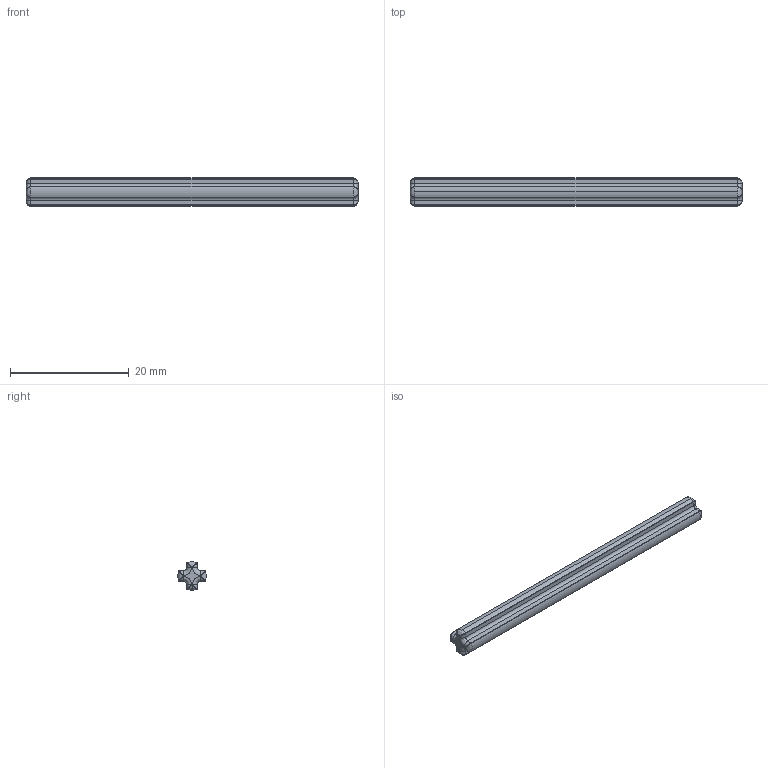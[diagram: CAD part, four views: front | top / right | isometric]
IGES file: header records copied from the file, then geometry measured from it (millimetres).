
Start section: SolidWorks IGES file using analytic representation for surfaces
Global section: file name: C:\Users\PC\Desktop\Lego Technik Gear and Axles\Axles\STEP, IGES, STL\44294 Black Technic Axle 7.IGS; native system: SolidWorks 2014; preprocessor: SolidWorks 2014; author: PC; date: 150218.234047; units: millimetre
Bounding box: 56 x 4.79 x 4.8 mm (x, y, z)
Surface area: 966.5 mm2 (no closed solid volume)
Topology: 0 solids, 0 shells, 77 faces, 490 edges, 474 vertices
Faces by surface type: bspline 44, revolution 33
